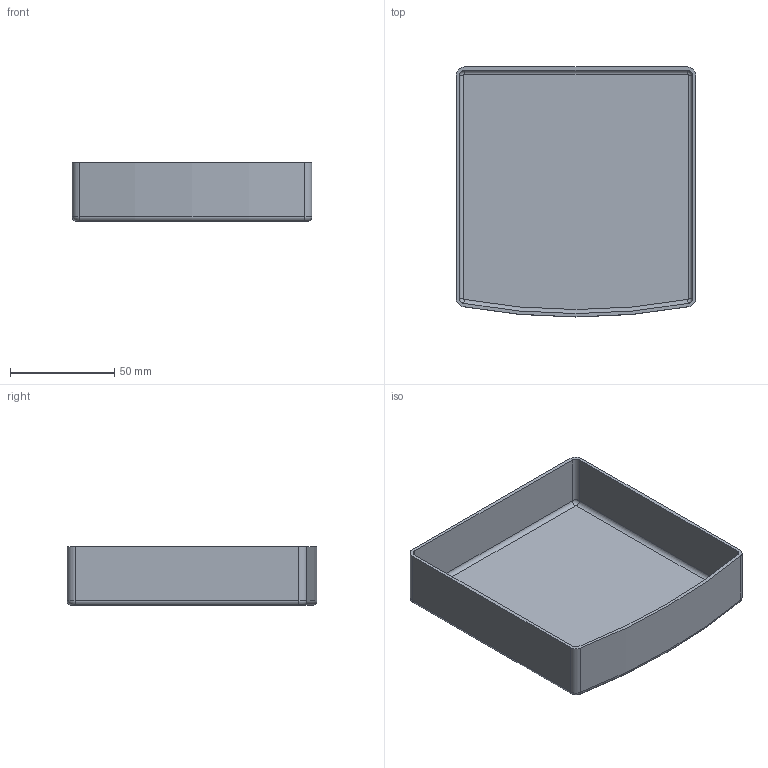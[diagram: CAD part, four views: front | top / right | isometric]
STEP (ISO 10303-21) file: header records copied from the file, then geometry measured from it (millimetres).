
FILE_DESCRIPTION(/* description */ ('STEP AP242','CAx-IF Rec.Pracs.---Representation and Presentation of Product Manufacturing Information (PMI)---4.0---2014-10-13','CAx-IF Rec.Pracs.---3D Tessellated Geometry---0.4---2014-09-14','2;1'),/* implementation_level */ '2;1');
FILE_NAME(/* name */ '676d3c67a686895630a1f649',/* time_stamp */ '2024-12-26T11:22:16Z',/* author */ (''),/* organization */ (''),/* preprocessor_version */ 'ST-DEVELOPER v20',/* originating_system */ 'ONSHAPE BY PTC INC, 1.191',/* authorisation */ ' ');
FILE_SCHEMA (('AP242_MANAGED_MODEL_BASED_3D_ENGINEERING_MIM_LF { 1 0 10303 442 1 1 4 }'));
Length unit declared in the file: metre
Products named in the file (1): Protection Cover
Bounding box: 115 x 120 x 28 mm (x, y, z)
Volume: 45826.8 mm3; surface area: 50638.9 mm2
Topology: 1 solids, 1 shells, 35 faces, 80 edges, 48 vertices
Faces by surface type: cylinder 16, torus 10, plane 9
Entity records: 1014 total; most frequent: DIRECTION 198, CARTESIAN_POINT 164, ORIENTED_EDGE 160, AXIS2_PLACEMENT_3D 82, EDGE_CURVE 80, VERTEX_POINT 48, CIRCLE 46, EDGE_LOOP 36
